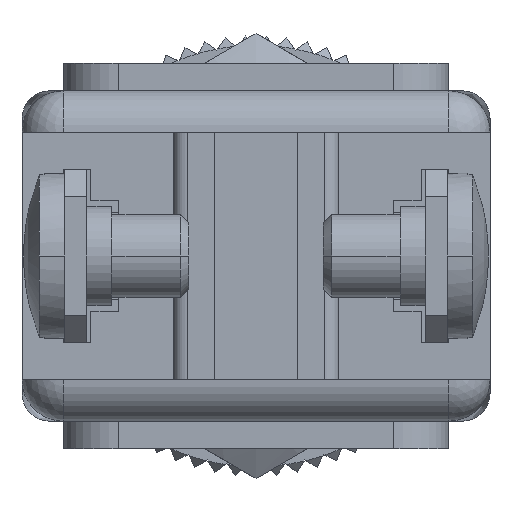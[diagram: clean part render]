
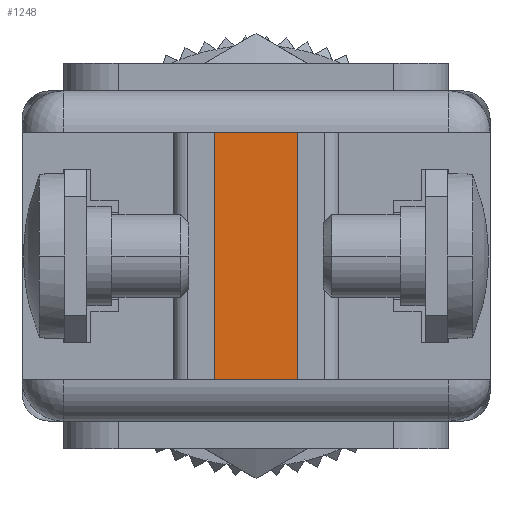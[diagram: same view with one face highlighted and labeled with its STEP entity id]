
A CAD part, front view. The second image highlights one B-rep face of the part: STEP entity #1248.
In plain terms, the highlighted planar face has unit normal (0, -1, 0).
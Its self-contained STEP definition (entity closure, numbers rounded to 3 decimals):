
#385=DIRECTION('',(1.,0.,0.));
#386=VECTOR('',#385,3.);
#387=CARTESIAN_POINT('',(-1.5,-15.5,4.5));
#388=LINE('',#387,#386);
#389=DIRECTION('',(0.,0.,1.));
#390=VECTOR('',#389,9.);
#391=CARTESIAN_POINT('',(1.5,-15.5,-4.5));
#392=LINE('',#391,#390);
#393=DIRECTION('',(1.,0.,0.));
#394=VECTOR('',#393,3.);
#395=CARTESIAN_POINT('',(-1.5,-15.5,-4.5));
#396=LINE('',#395,#394);
#397=DIRECTION('',(0.,0.,1.));
#398=VECTOR('',#397,9.);
#399=CARTESIAN_POINT('',(-1.5,-15.5,-4.5));
#400=LINE('',#399,#398);
#677=CARTESIAN_POINT('',(-1.5,-15.5,-4.5));
#678=VERTEX_POINT('',#677);
#679=CARTESIAN_POINT('',(1.5,-15.5,-4.5));
#680=VERTEX_POINT('',#679);
#697=CARTESIAN_POINT('',(-1.5,-15.5,4.5));
#698=VERTEX_POINT('',#697);
#699=CARTESIAN_POINT('',(1.5,-15.5,4.5));
#700=VERTEX_POINT('',#699);
#1236=CARTESIAN_POINT('',(-1.5,-15.5,-6.));
#1237=DIRECTION('',(0.,-1.,0.));
#1238=DIRECTION('',(1.,0.,0.));
#1239=AXIS2_PLACEMENT_3D('',#1236,#1237,#1238);
#1240=PLANE('',#1239);
#1241=ORIENTED_EDGE('',*,*,#1146,.T.);
#1242=ORIENTED_EDGE('',*,*,#1231,.F.);
#1243=ORIENTED_EDGE('',*,*,#840,.F.);
#1245=ORIENTED_EDGE('',*,*,#1244,.T.);
#1246=EDGE_LOOP('',(#1241,#1242,#1243,#1245));
#1247=FACE_OUTER_BOUND('',#1246,.F.);
#840=EDGE_CURVE('',#678,#680,#396,.T.);
#1146=EDGE_CURVE('',#698,#700,#388,.T.);
#1231=EDGE_CURVE('',#680,#700,#392,.T.);
#1244=EDGE_CURVE('',#678,#698,#400,.T.);
#1248=ADVANCED_FACE('',(#1247),#1240,.T.);
